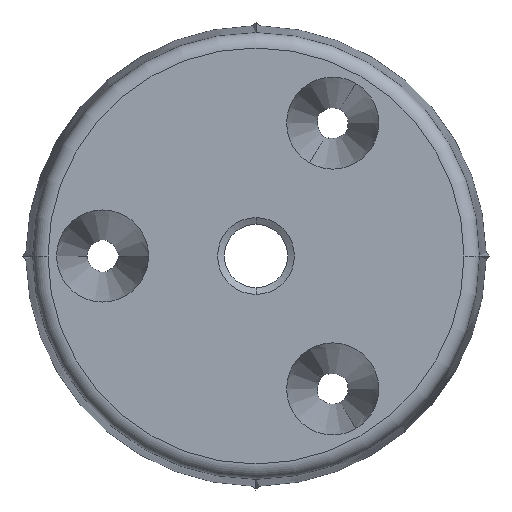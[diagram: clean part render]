
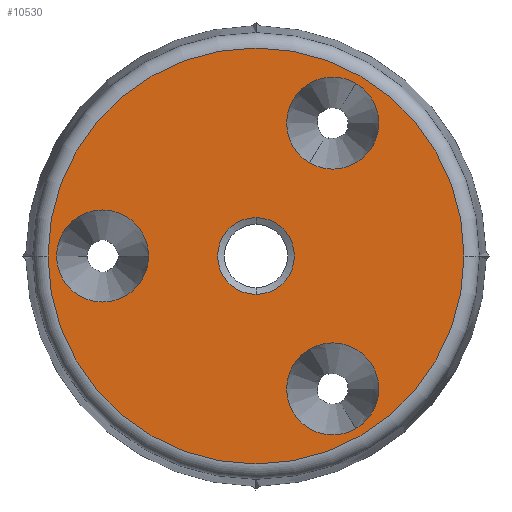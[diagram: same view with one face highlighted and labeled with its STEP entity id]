
A CAD part, left-side view. The second image highlights one B-rep face of the part: STEP entity #10530.
In plain terms, the highlighted planar face has unit normal (-1, 0, 0).
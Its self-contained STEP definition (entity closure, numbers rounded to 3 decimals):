
#1740=CARTESIAN_POINT('',(47.441,27.32,0.));
#1750=VERTEX_POINT('',#1740);
#1850=CARTESIAN_POINT('',(47.441,54.428,0.));
#1860=VERTEX_POINT('',#1850);
#1890=CARTESIAN_POINT('',(47.441,40.874,0.));
#1900=DIRECTION('',(1.,0.,0.));
#1910=DIRECTION('',(0.,-1.,0.));
#1920=AXIS2_PLACEMENT_3D('',#1890,#1900,#1910);
#1930=CIRCLE('',#1920,13.554);
#1940=EDGE_CURVE('',#1750,#1860,#1930,.T.);
#3730=CARTESIAN_POINT('',(47.441,37.374,6.062));
#3740=VERTEX_POINT('',#3730);
#3770=CARTESIAN_POINT('',(47.441,35.874,8.66));
#3780=DIRECTION('',(-1.,0.,0.));
#3790=DIRECTION('',(0.,-0.5,0.866));
#3800=AXIS2_PLACEMENT_3D('',#3770,#3780,#3790);
#3810=CIRCLE('',#3800,3.);
#3820=CARTESIAN_POINT('',(47.441,34.374,11.258));
#3830=VERTEX_POINT('',#3820);
#3840=EDGE_CURVE('',#3830,#3740,#3810,.T.);
#6400=CARTESIAN_POINT('',(47.441,43.374,0.));
#6410=VERTEX_POINT('',#6400);
#6630=CARTESIAN_POINT('',(47.441,38.374,0.));
#6640=VERTEX_POINT('',#6630);
#6670=CARTESIAN_POINT('',(47.441,40.874,0.));
#6680=DIRECTION('',(1.,0.,0.));
#6690=DIRECTION('',(0.,-1.,0.));
#6700=AXIS2_PLACEMENT_3D('',#6670,#6680,#6690);
#6710=CIRCLE('',#6700,2.5);
#6720=EDGE_CURVE('',#6640,#6410,#6710,.T.);
#8220=CARTESIAN_POINT('',(47.441,47.874,0.));
#8230=VERTEX_POINT('',#8220);
#8260=CARTESIAN_POINT('',(47.441,50.874,0.));
#8270=DIRECTION('',(-1.,0.,0.));
#8280=DIRECTION('',(0.,1.,0.));
#8290=AXIS2_PLACEMENT_3D('',#8260,#8270,#8280);
#8300=CIRCLE('',#8290,3.);
#8310=CARTESIAN_POINT('',(47.441,53.874,0.));
#8320=VERTEX_POINT('',#8310);
#8330=EDGE_CURVE('',#8320,#8230,#8300,.T.);
#9800=CARTESIAN_POINT('',(47.441,37.374,-6.062));
#9810=VERTEX_POINT('',#9800);
#9840=CARTESIAN_POINT('',(47.441,35.874,-8.66));
#9850=DIRECTION('',(-1.,0.,0.));
#9860=DIRECTION('',(0.,-0.5,-0.866));
#9870=AXIS2_PLACEMENT_3D('',#9840,#9850,#9860);
#9880=CIRCLE('',#9870,3.);
#9890=CARTESIAN_POINT('',(47.441,34.374,-11.258));
#9900=VERTEX_POINT('',#9890);
#9910=EDGE_CURVE('',#9900,#9810,#9880,.T.);
#10230=CARTESIAN_POINT('',(47.441,48.124,0.));
#10240=DIRECTION('',(1.,0.,0.));
#10250=DIRECTION('',(0.,-1.,0.));
#10260=AXIS2_PLACEMENT_3D('',#10230,#10240,#10250);
#10270=PLANE('',#10260);
#10280=ORIENTED_EDGE('',*,*,#3840,.F.);
#10290=EDGE_CURVE('',#3740,#3830,#3810,.T.);
#10300=ORIENTED_EDGE('',*,*,#10290,.F.);
#10310=EDGE_LOOP('',(#10300,#10280));
#10320=FACE_BOUND('',#10310,.T.);
#10330=ORIENTED_EDGE('',*,*,#9910,.F.);
#10340=EDGE_CURVE('',#9810,#9900,#9880,.T.);
#10350=ORIENTED_EDGE('',*,*,#10340,.F.);
#10360=EDGE_LOOP('',(#10350,#10330));
#10370=FACE_BOUND('',#10360,.T.);
#10380=ORIENTED_EDGE('',*,*,#8330,.F.);
#10390=EDGE_CURVE('',#8230,#8320,#8300,.T.);
#10400=ORIENTED_EDGE('',*,*,#10390,.F.);
#10410=EDGE_LOOP('',(#10400,#10380));
#10420=FACE_BOUND('',#10410,.T.);
#10430=EDGE_CURVE('',#6410,#6640,#6710,.T.);
#10440=ORIENTED_EDGE('',*,*,#10430,.T.);
#10450=ORIENTED_EDGE('',*,*,#6720,.T.);
#10460=EDGE_LOOP('',(#10450,#10440));
#10470=FACE_BOUND('',#10460,.T.);
#10480=EDGE_CURVE('',#1860,#1750,#1930,.T.);
#10490=ORIENTED_EDGE('',*,*,#10480,.F.);
#10500=ORIENTED_EDGE('',*,*,#1940,.F.);
#10510=EDGE_LOOP('',(#10500,#10490));
#10520=FACE_OUTER_BOUND('',#10510,.T.);
#10530=ADVANCED_FACE('',(#10320,#10370,#10420,#10470,#10520),#10270,.F.)
;
